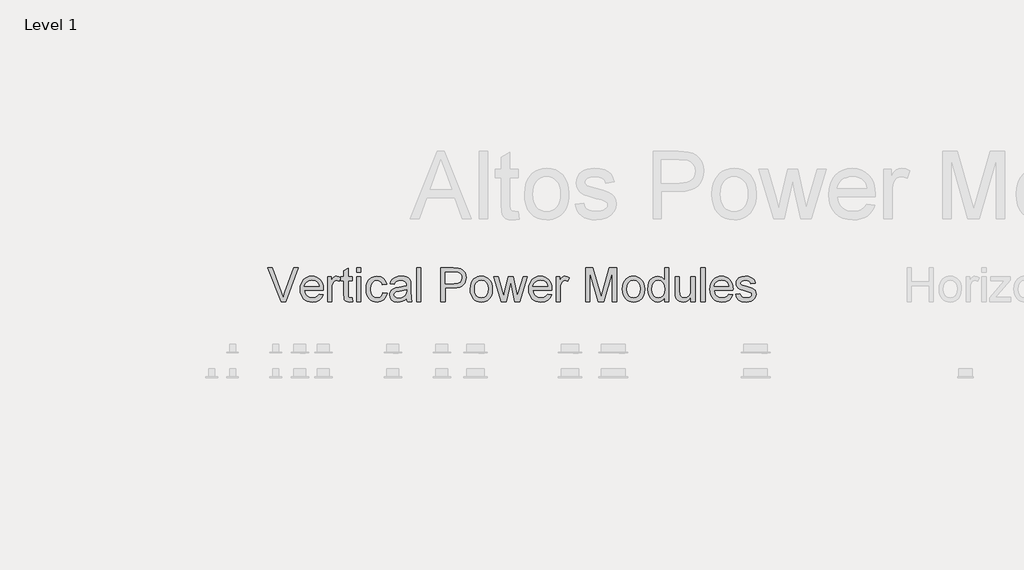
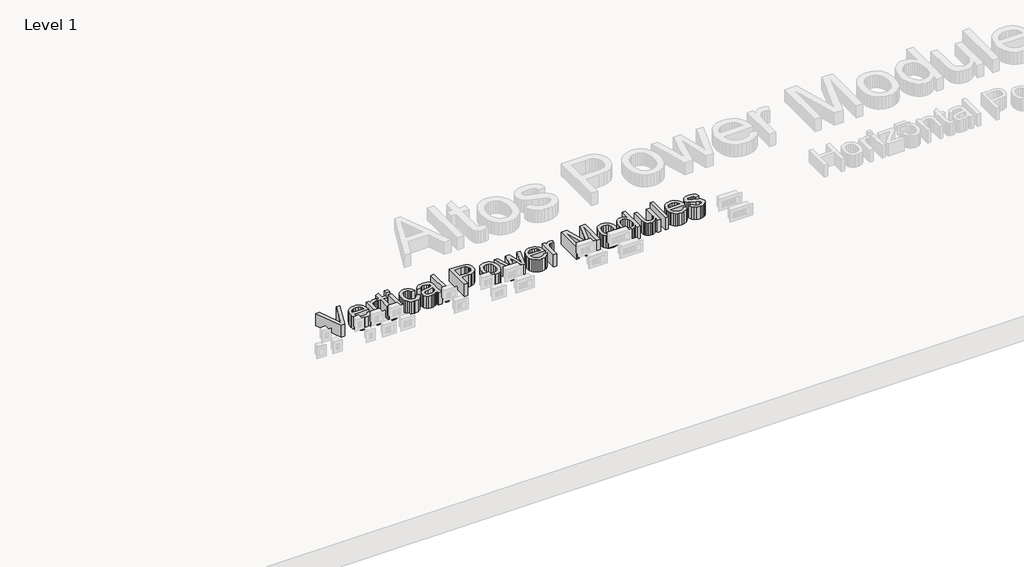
# One storey, part 18 of 22: 1 proxy.
"""IFC4 building model written with IfcOpenShell, lengths in millimetres."""

from ifc_helpers import new_model, si_unit, origin, origin_with_axes, place, context, project, spatial, polyline, outline, extrude, element, save

model = new_model("IFC4")

# Units and contexts
model_context = context("Model", 3, world=origin())
ifc_project = project(units=[si_unit("LENGTHUNIT", "METRE", prefix="MILLI")], contexts=[model_context])

# Site, building, storey
site = spatial("IfcSite", under=ifc_project)
building = spatial("IfcBuilding", under=site)
storey = spatial("IfcBuildingStorey", under=building, Name="Level 1", Elevation=0.0)

# Proxy
placement = place(None, origin())
element("IfcBuildingElementProxy", 1, Name="12\" Arial", ObjectType="12\" Arial", at=placement, inside=storey, context=model_context, shape_type="SweptSolid", body=[
    extrude(outline(polyline([(-18533.2888471, -4815.0855238), (-18654.4910843, -4510.5184297), (-18613.7433383, -4510.5184297), (-18532.6196323, -4729.946529), (-18516.186691, -4779.3940674), (-18499.9768212, -4729.946529), (-18418.6300437, -4510.5184297), (-18377.8822977, -4510.5184297), (-18493.953888, -4815.0855238), (-18533.2888471, -4815.0855238)])), origin_with_axes(), (0.0, 0.0, 1.0), 152.4),
    extrude(outline(polyline([(-18190.6508663, -4748.4614719), (-18153.3235516, -4753.2203328), (-18166.7729102, -4781.345944), (-18188.2342573, -4802.3704424), (-18217.2242709, -4815.4758991), (-18253.2596293, -4819.8443846), (-18276.8819825, -4817.9598943), (-18297.9297176, -4812.3064234), (-18316.4028347, -4802.8839719), (-18332.3013336, -4789.6925397), (-18345.0861248, -4773.0992657), (-18354.2181185, -4753.4712883), (-18359.6973148, -4730.8086078), (-18361.5237135, -4705.1112239), (-18359.6787255, -4678.5424667), (-18354.1437613, -4655.1245958), (-18344.9188211, -4634.8576112), (-18332.0039048, -4617.7415131), (-18316.1472318, -4604.14344), (-18298.0970213, -4594.4305307), (-18277.8532734, -4588.6027851), (-18255.4159881, -4586.6602032), (-18233.7013619, -4588.5981378), (-18214.0640899, -4594.4119414), (-18196.5041722, -4604.1016141), (-18181.0216088, -4617.6671559), (-18168.3832084, -4634.7460754), (-18159.3557795, -4654.9758814), (-18153.9393221, -4678.3565737), (-18152.1338363, -4704.8881523), (-18152.3569079, -4715.149446), (-18323.4528268, -4715.149446), (-18316.8629198, -4743.6468432), (-18301.5546312, -4764.5969845), (-18279.4612479, -4777.4793695), (-18252.5160573, -4781.7734979), (-18232.2537201, -4779.7844427), (-18215.1887425, -4773.8172774), (-18201.3211246, -4763.5002158), (-18190.6508663, -4748.4614719)]), holes=[polyline([(-18323.4528268, -4677.0785593), (-18190.2047231, -4677.0785593), (-18195.3539593, -4656.9649365), (-18205.4479492, -4642.5768181), (-18227.6435737, -4629.192522), (-18255.5647025, -4624.73109), (-18281.2272314, -4628.290941), (-18302.4469176, -4638.9704939), (-18317.1975272, -4655.6172122), (-18323.4528268, -4677.0785593)])]), origin_with_axes(), (0.0, 0.0, 1.0), 152.4),
    extrude(outline(polyline([(-17890.3964899, -4783.3349991), (-17885.637629, -4816.2008818), (-17914.1164369, -4819.8443846), (-17932.389719, -4818.2642941), (-17946.015676, -4813.5240226), (-17955.6449335, -4806.2184276), (-17961.928117, -4796.9423668), (-17965.3857268, -4781.0113365), (-17966.5382634, -4753.7408332), (-17966.5382634, -4629.4899508), (-17995.0914285, -4629.4899508), (-17995.0914285, -4598.4086409), (-17995.0914285, -4591.4190641), (-17966.5382634, -4591.4190641), (-17966.5382634, -4537.0639504), (-17928.4673766, -4514.6824329), (-17928.4673766, -4591.4190641), (-17890.3964899, -4591.4190641), (-17890.3964899, -4629.4899508), (-17928.4673766, -4629.4899508), (-17928.4673766, -4752.6254752), (-17926.4597322, -4772.2557762), (-17919.9534772, -4779.2081744), (-17906.9781456, -4781.7734979), (-17890.3964899, -4783.3349991)])), origin_with_axes(), (0.0, 0.0, 1.0), 152.4),
    extrude(outline(polyline([(-18114.0629496, -4815.0855238), (-18114.0629496, -4591.4190641), (-18080.7509237, -4591.4190641), (-18080.7509237, -4624.5080184), (-18068.444807, -4605.3238606), (-18057.1053339, -4594.0215661), (-18045.7286821, -4588.5005439), (-18033.3110296, -4586.6602032), (-18014.3499434, -4589.5973126), (-17995.0914285, -4598.4086409), (-18007.8065098, -4632.5385961), (-18021.1908059, -4626.6829665), (-18034.575102, -4624.73109), (-18045.9424591, -4626.6086093), (-18056.1015116, -4632.2411672), (-18064.3086877, -4641.2012099), (-18069.8204152, -4653.0611834), (-18074.4491509, -4674.3273428), (-18075.9920628, -4697.5267895), (-18075.9920628, -4815.0855238), (-18114.0629496, -4815.0855238)])), origin_with_axes(), (0.0, 0.0, 1.0), 152.4),
    extrude(outline(polyline([(-17852.3256031, -4815.0855238), (-17852.3256031, -4591.4190641), (-17814.2547164, -4591.4190641), (-17814.2547164, -4815.0855238), (-17852.3256031, -4815.0855238)])), origin_with_axes(), (0.0, 0.0, 1.0), 152.4),
    extrude(outline(polyline([(-17852.3256031, -4548.5893165), (-17852.3256031, -4510.5184297), (-17814.2547164, -4510.5184297), (-17814.2547164, -4548.5893165), (-17852.3256031, -4548.5893165)])), origin_with_axes(), (0.0, 0.0, 1.0), 152.4),
    extrude(outline(polyline([(-17614.3825609, -4734.1848894), (-17576.3116741, -4738.9437503), (-17586.9261645, -4772.8041605), (-17606.8724836, -4798.3923322), (-17634.2731121, -4814.4813715), (-17667.2505306, -4819.8443846), (-17688.6026655, -4817.9738363), (-17707.747321, -4812.3621913), (-17724.6844971, -4803.0094496), (-17739.4141939, -4789.9156113), (-17751.3369063, -4773.3269846), (-17759.8531294, -4753.4898776), (-17764.9628633, -4730.4042905), (-17766.6661079, -4704.0702231), (-17763.7568824, -4670.1912236), (-17755.029206, -4640.8294239), (-17740.3436589, -4617.1187716), (-17719.5608213, -4600.1932137), (-17694.6976323, -4590.0434558), (-17667.771031, -4586.6602032), (-17635.602247, -4591.3075283), (-17609.8839502, -4605.2495034), (-17591.4340698, -4627.7425566), (-17581.070535, -4658.0431159), (-17619.1414217, -4662.8019767), (-17626.0473467, -4646.192437), (-17636.8012569, -4634.2859903), (-17650.8082946, -4627.119815), (-17667.4736022, -4624.73109), (-17692.076541, -4629.4341829), (-17711.6046008, -4643.5434618), (-17724.3475661, -4667.8210878), (-17728.5952212, -4703.0292223), (-17724.4405126, -4738.711384), (-17711.9763868, -4763.0726619), (-17692.8015237, -4777.0982889), (-17668.514603, -4781.7734979), (-17648.8006502, -4778.8549777), (-17632.6372537, -4770.0994173), (-17620.8795213, -4755.2837451), (-17614.3825609, -4734.1848894)])), origin_with_axes(), (0.0, 0.0, 1.0), 152.4),
    extrude(outline(polyline([(-17400.2338229, -4786.5323587), (-17418.4234531, -4802.1287815), (-17437.152173, -4812.3343073), (-17456.8475365, -4817.9668653), (-17477.9370976, -4819.8443846), (-17509.7526848, -4815.3271847), (-17533.2216763, -4801.7755848), (-17547.6934465, -4781.1972296), (-17552.5173699, -4755.5997632), (-17550.6956185, -4739.8174474), (-17545.2303642, -4725.4850969), (-17536.8001166, -4713.2161588), (-17526.083385, -4703.6240799), (-17499.4263286, -4691.1320702), (-17466.4860887, -4685.4065657), (-17427.5600941, -4679.3836325), (-17400.4568945, -4672.3196984), (-17400.2338229, -4663.8429775), (-17402.8549142, -4646.8523572), (-17410.7181882, -4635.7359557), (-17428.3036661, -4627.4823064), (-17452.8043638, -4624.73109), (-17475.48331, -4626.562136), (-17491.3213937, -4632.0552742), (-17502.1217771, -4642.2143268), (-17509.6876223, -4658.0431159), (-17547.7585091, -4653.284255), (-17541.1500128, -4632.4642388), (-17531.2883891, -4616.1056547), (-17517.2534675, -4603.5950557), (-17498.1250776, -4594.3189949), (-17474.7304433, -4588.5749011), (-17447.8967885, -4586.6602032), (-17422.1599024, -4588.3518295), (-17401.7581455, -4593.4267085), (-17386.3754996, -4601.0576162), (-17375.6959466, -4610.4173288), (-17368.6134233, -4621.9891682), (-17364.0218661, -4636.2564561), (-17362.1629361, -4669.568482), (-17362.1629361, -4716.9340188), (-17360.2296489, -4783.0747489), (-17352.6452144, -4815.0855238), (-17390.7161012, -4815.0855238), (-17396.8133916, -4801.849942), (-17400.2338229, -4786.5323587)]), holes=[polyline([(-17400.2338229, -4710.3905852), (-17461.6528706, -4722.0646657), (-17494.4072176, -4728.2363134), (-17509.2414791, -4738.2745354), (-17514.4464831, -4752.922904), (-17511.6116149, -4764.2437878), (-17503.10701, -4773.5198486), (-17489.1185617, -4779.7100855), (-17469.8321627, -4781.7734979), (-17449.3839325, -4779.4963086), (-17431.3151328, -4772.6647408), (-17416.6667642, -4762.5986347), (-17406.4798277, -4750.6178308), (-17401.9626278, -4738.2745354), (-17400.4568945, -4721.1723793), (-17400.2338229, -4710.3905852)])]), origin_with_axes(), (0.0, 0.0, 1.0), 152.4),
    extrude(outline(polyline([(-17309.8154668, -4815.0855238), (-17309.8154668, -4510.5184297), (-17271.7445801, -4510.5184297), (-17271.7445801, -4815.0855238), (-17309.8154668, -4815.0855238)])), origin_with_axes(), (0.0, 0.0, 1.0), 152.4),
    extrude(outline(polyline([(-17090.907868, -4815.0855238), (-17090.907868, -4510.5184297), (-16978.0336373, -4510.5184297), (-16932.5270305, -4513.4183605), (-16912.2368093, -4518.8371415), (-16895.5343231, -4527.6577645), (-16882.0849644, -4540.2798993), (-16871.5541259, -4557.1032159), (-16864.750442, -4576.9472939), (-16862.4825474, -4598.6317125), (-16864.013841, -4617.3279012), (-16868.6077218, -4634.5276512), (-16876.2641898, -4650.2309625), (-16886.983245, -4664.4378352), (-16901.6989998, -4676.2141568), (-16921.3455664, -4684.6258151), (-16945.9229449, -4689.6728101), (-16975.4311353, -4691.3551418), (-17052.8369812, -4691.3551418), (-17052.8369812, -4815.0855238), (-17090.907868, -4815.0855238)]), holes=[polyline([(-17052.8369812, -4653.284255), (-16973.2004192, -4653.284255), (-16939.4422501, -4649.7894666), (-16917.1350899, -4639.3051013), (-16904.6988481, -4622.4817847), (-16900.5534342, -4599.9701421), (-16902.9979271, -4582.867986), (-16910.3314061, -4568.442689), (-16921.6429952, -4557.5865377), (-16936.0218189, -4551.1918185), (-16974.0927057, -4548.5893165), (-17052.8369812, -4548.5893165), (-17052.8369812, -4653.284255)])]), origin_with_axes(), (0.0, 0.0, 1.0), 152.4),
    extrude(outline(polyline([(-16824.4116606, -4703.2522939), (-16822.3528956, -4674.2855169), (-16816.1766007, -4649.3247341), (-16805.8827757, -4628.3699455), (-16791.4714207, -4611.4211511), (-16776.9624719, -4600.5882364), (-16760.9477898, -4592.8504402), (-16743.4273744, -4588.2077625), (-16724.4012257, -4586.6602032), (-16703.3976402, -4588.5446935), (-16684.4063464, -4594.1981644), (-16667.4273443, -4603.620616), (-16652.460634, -4616.8120481), (-16640.2451401, -4633.3263176), (-16631.5197874, -4652.7172814), (-16626.2845757, -4674.9849393), (-16624.5395052, -4700.1292915), (-16627.625329, -4738.5905535), (-16636.8828005, -4767.8687013), (-16652.0423748, -4789.7947809), (-16672.834507, -4806.1998383), (-16697.5303923, -4816.433248), (-16724.4012257, -4819.8443846), (-16745.7115347, -4817.9668653), (-16764.8794268, -4812.3343073), (-16781.9049021, -4802.9467108), (-16796.7879606, -4789.8040755), (-16808.8733294, -4773.1294733), (-16817.5057356, -4753.1459756), (-16822.6851794, -4729.8535825), (-16824.4116606, -4703.2522939)]), holes=[polyline([(-16786.3407739, -4703.1779367), (-16781.9351097, -4737.6332046), (-16768.7181173, -4762.1803755), (-16748.8275661, -4776.8752173), (-16724.4012257, -4781.7734979), (-16700.0864211, -4776.8473333), (-16680.2330485, -4762.0688397), (-16667.0160561, -4737.196356), (-16662.6103919, -4701.9882215), (-16667.04394, -4668.5367758), (-16680.3445843, -4644.3242124), (-16700.2258408, -4629.6293706), (-16724.4012257, -4624.73109), (-16748.8275661, -4629.6107813), (-16768.7181173, -4644.2498552), (-16781.9351097, -4668.7412581), (-16786.3407739, -4703.1779367)])]), origin_with_axes(), (0.0, 0.0, 1.0), 152.4),
    extrude(outline(polyline([(-16544.6055144, -4815.0855238), (-16612.642353, -4591.4190641), (-16573.0843223, -4591.4190641), (-16534.4929351, -4721.9159513), (-16522.967569, -4768.5379161), (-16513.5242045, -4723.6261669), (-16482.8146806, -4591.4190641), (-16437.4567882, -4591.4190641), (-16406.8959787, -4723.2543809), (-16398.493615, -4763.9277697), (-16386.4477485, -4721.0236649), (-16347.7820042, -4591.4190641), (-16308.075259, -4591.4190641), (-16376.632598, -4815.0855238), (-16422.6597053, -4815.0855238), (-16451.8820851, -4683.9194217), (-16460.358806, -4643.0229613), (-16498.0579068, -4815.0855238), (-16544.6055144, -4815.0855238)])), origin_with_axes(), (0.0, 0.0, 1.0), 152.4),
    extrude(outline(polyline([(-16125.3052597, -4748.4614719), (-16087.9779449, -4753.2203328), (-16101.4273036, -4781.345944), (-16122.8886506, -4802.3704424), (-16151.8786643, -4815.4758991), (-16187.9140226, -4819.8443846), (-16211.5363758, -4817.9598943), (-16232.584111, -4812.3064234), (-16251.057228, -4802.8839719), (-16266.955727, -4789.6925397), (-16279.7405182, -4773.0992657), (-16288.8725119, -4753.4712883), (-16294.3517081, -4730.8086078), (-16296.1781069, -4705.1112239), (-16294.3331188, -4678.5424667), (-16288.7981547, -4655.1245958), (-16279.5732145, -4634.8576112), (-16266.6582982, -4617.7415131), (-16250.8016251, -4604.14344), (-16232.7514147, -4594.4305307), (-16212.5076668, -4588.6027851), (-16190.0703815, -4586.6602032), (-16168.3557552, -4588.5981378), (-16148.7184832, -4594.4119414), (-16131.1585655, -4604.1016141), (-16115.6760022, -4617.6671559), (-16103.0376017, -4634.7460754), (-16094.0101728, -4654.9758814), (-16088.5937155, -4678.3565737), (-16086.7882297, -4704.8881523), (-16087.0113013, -4715.149446), (-16258.1072201, -4715.149446), (-16251.5173132, -4743.6468432), (-16236.2090245, -4764.5969845), (-16214.1156412, -4777.4793695), (-16187.1704506, -4781.7734979), (-16166.9081134, -4779.7844427), (-16149.8431359, -4773.8172774), (-16135.975518, -4763.5002158), (-16125.3052597, -4748.4614719)]), holes=[polyline([(-16258.1072201, -4677.0785593), (-16124.8591165, -4677.0785593), (-16130.0083526, -4656.9649365), (-16140.1023426, -4642.5768181), (-16162.297967, -4629.192522), (-16190.2190959, -4624.73109), (-16215.8816248, -4628.290941), (-16237.1013109, -4638.9704939), (-16251.8519206, -4655.6172122), (-16258.1072201, -4677.0785593)])]), origin_with_axes(), (0.0, 0.0, 1.0), 152.4),
    extrude(outline(polyline([(-16048.7173429, -4815.0855238), (-16048.7173429, -4591.4190641), (-16015.405317, -4591.4190641), (-16015.405317, -4624.5080184), (-16003.0992003, -4605.3238606), (-15991.7597272, -4594.0215661), (-15980.3830755, -4588.5005439), (-15967.965423, -4586.6602032), (-15949.0043368, -4589.5973126), (-15929.7458218, -4598.4086409), (-15942.4609031, -4632.5385961), (-15955.8451993, -4626.6829665), (-15969.2294954, -4624.73109), (-15980.5968524, -4626.6086093), (-15990.755905, -4632.2411672), (-15998.963081, -4641.2012099), (-16004.4748085, -4653.0611834), (-16009.1035443, -4674.3273428), (-16010.6464562, -4697.5267895), (-16010.6464562, -4815.0855238), (-16048.7173429, -4815.0855238)])), origin_with_axes(), (0.0, 0.0, 1.0), 152.4),
    extrude(outline(polyline([(-15782.2211356, -4815.0855238), (-15782.2211356, -4510.5184297), (-15716.7124418, -4510.5184297), (-15654.4011076, -4725.1876681), (-15641.8347407, -4770.0250601), (-15628.227373, -4721.4698081), (-15566.9570396, -4510.5184297), (-15501.4483458, -4510.5184297), (-15501.4483458, -4815.0855238), (-15539.5192325, -4815.0855238), (-15539.5192325, -4548.5893165), (-15616.0327921, -4815.0855238), (-15667.6366893, -4815.0855238), (-15744.1502489, -4548.5893165), (-15744.1502489, -4815.0855238), (-15782.2211356, -4815.0855238)])), origin_with_axes(), (0.0, 0.0, 1.0), 152.4),
    extrude(outline(polyline([(-15449.1008765, -4703.2522939), (-15447.0421115, -4674.2855169), (-15440.8658165, -4649.3247341), (-15430.5719915, -4628.3699455), (-15416.1606366, -4611.4211511), (-15401.6516878, -4600.5882364), (-15385.6370057, -4592.8504402), (-15368.1165903, -4588.2077625), (-15349.0904415, -4586.6602032), (-15328.086856, -4588.5446935), (-15309.0955622, -4594.1981644), (-15292.1165602, -4603.620616), (-15277.1498499, -4616.8120481), (-15264.934356, -4633.3263176), (-15256.2090032, -4652.7172814), (-15250.9737916, -4674.9849393), (-15249.228721, -4700.1292915), (-15252.3145448, -4738.5905535), (-15261.5720163, -4767.8687013), (-15276.7315906, -4789.7947809), (-15297.5237229, -4806.1998383), (-15322.2196081, -4816.433248), (-15349.0904415, -4819.8443846), (-15370.4007505, -4817.9668653), (-15389.5686427, -4812.3343073), (-15406.594118, -4802.9467108), (-15421.4771764, -4789.8040755), (-15433.5625452, -4773.1294733), (-15442.1949515, -4753.1459756), (-15447.3743952, -4729.8535825), (-15449.1008765, -4703.2522939)]), holes=[polyline([(-15411.0299897, -4703.1779367), (-15406.6243256, -4737.6332046), (-15393.4073332, -4762.1803755), (-15373.516782, -4776.8752173), (-15349.0904415, -4781.7734979), (-15324.7756369, -4776.8473333), (-15304.9222643, -4762.0688397), (-15291.7052719, -4737.196356), (-15287.2996078, -4701.9882215), (-15291.7331559, -4668.5367758), (-15305.0338001, -4644.3242124), (-15324.9150567, -4629.6293706), (-15349.0904415, -4624.73109), (-15373.516782, -4629.6107813), (-15393.4073332, -4644.2498552), (-15406.6243256, -4668.7412581), (-15411.0299897, -4703.1779367)])]), origin_with_axes(), (0.0, 0.0, 1.0), 152.4),
    extrude(outline(polyline([(-15068.3920089, -4815.0855238), (-15068.3920089, -4779.1709958), (-15079.7826026, -4796.9656034), (-15093.5805106, -4809.6760374), (-15109.7857331, -4817.3022978), (-15128.3982699, -4819.8443846), (-15153.0105033, -4816.1637032), (-15175.5407351, -4805.1216589), (-15194.6133571, -4787.4897077), (-15208.852761, -4764.0393055), (-15217.7198572, -4735.7185067), (-15220.6755559, -4703.4753655), (-15217.9522235, -4671.6318943), (-15209.782226, -4642.8742469), (-15196.1748583, -4618.8382818), (-15177.1394149, -4601.1598574), (-15154.1165667, -4590.2851168), (-15128.5469843, -4586.6602032), (-15109.9205055, -4589.2534106), (-15093.4503855, -4597.0330327), (-15079.4898211, -4608.9580688), (-15068.3920089, -4623.987518), (-15068.3920089, -4510.5184297), (-15030.3211221, -4510.5184297), (-15030.3211221, -4815.0855238), (-15068.3920089, -4815.0855238)]), holes=[polyline([(-15182.6046692, -4703.3266511), (-15178.3105408, -4737.7633297), (-15165.4281558, -4762.2547327), (-15146.7087305, -4776.8938066), (-15124.9034814, -4781.7734979), (-15103.107527, -4777.1168782), (-15084.8621289, -4763.1470191), (-15072.5095389, -4739.6036704), (-15068.3920089, -4706.2265819), (-15072.5838961, -4669.7357857), (-15085.1595577, -4644.4357482), (-15103.8696883, -4629.6572545), (-15126.4649827, -4624.73109), (-15148.4933034, -4629.4620669), (-15166.5435138, -4643.6549976), (-15178.5893803, -4668.0348647), (-15182.6046692, -4703.3266511)])]), origin_with_axes(), (0.0, 0.0, 1.0), 152.4),
    extrude(outline(polyline([(-14830.4489667, -4815.0855238), (-14830.4489667, -4776.642851), (-14844.2236381, -4795.543522), (-14860.2662041, -4809.0440012), (-14878.5766648, -4817.1442888), (-14899.1550201, -4819.8443846), (-14917.697847, -4817.948276), (-14934.9580122, -4812.2599501), (-14949.4390771, -4803.7088721), (-14959.6446029, -4793.2245068), (-14966.5133493, -4780.4908361), (-14970.984076, -4765.1918421), (-14973.214792, -4729.7978146), (-14973.214792, -4591.4190641), (-14935.1439052, -4591.4190641), (-14935.1439052, -4711.8777292), (-14932.838832, -4750.692188), (-14927.2899259, -4763.6396355), (-14917.7814989, -4773.48267), (-14904.9455871, -4779.7007909), (-14889.4142268, -4781.7734979), (-14872.9905801, -4779.6543176), (-14857.6265235, -4773.296777), (-14844.9579154, -4763.2864388), (-14836.6206143, -4750.2088662), (-14831.9918786, -4732.2980754), (-14830.4489667, -4707.7880832), (-14830.4489667, -4591.4190641), (-14792.3780799, -4591.4190641), (-14792.3780799, -4815.0855238), (-14830.4489667, -4815.0855238)])), origin_with_axes(), (0.0, 0.0, 1.0), 152.4),
    extrude(outline(polyline([(-14740.0306106, -4815.0855238), (-14740.0306106, -4510.5184297), (-14701.9597239, -4510.5184297), (-14701.9597239, -4815.0855238), (-14740.0306106, -4815.0855238)])), origin_with_axes(), (0.0, 0.0, 1.0), 152.4),
    extrude(outline(polyline([(-14488.257129, -4748.4614719), (-14450.9298143, -4753.2203328), (-14464.379173, -4781.345944), (-14485.84052, -4802.3704424), (-14514.8305336, -4815.4758991), (-14550.865892, -4819.8443846), (-14574.4882452, -4817.9598943), (-14595.5359804, -4812.3064234), (-14614.0090974, -4802.8839719), (-14629.9075964, -4789.6925397), (-14642.6923876, -4773.0992657), (-14651.8243813, -4753.4712883), (-14657.3035775, -4730.8086078), (-14659.1299762, -4705.1112239), (-14657.2849882, -4678.5424667), (-14651.7500241, -4655.1245958), (-14642.5250839, -4634.8576112), (-14629.6101676, -4617.7415131), (-14613.7534945, -4604.14344), (-14595.7032841, -4594.4305307), (-14575.4595362, -4588.6027851), (-14553.0222509, -4586.6602032), (-14531.3076246, -4588.5981378), (-14511.6703526, -4594.4119414), (-14494.1104349, -4604.1016141), (-14478.6278715, -4617.6671559), (-14465.9894711, -4634.7460754), (-14456.9620422, -4654.9758814), (-14451.5455849, -4678.3565737), (-14449.7400991, -4704.8881523), (-14449.9631707, -4715.149446), (-14621.0590895, -4715.149446), (-14614.4691826, -4743.6468432), (-14599.1608939, -4764.5969845), (-14577.0675106, -4777.4793695), (-14550.12232, -4781.7734979), (-14529.8599828, -4779.7844427), (-14512.7950053, -4773.8172774), (-14498.9273873, -4763.5002158), (-14488.257129, -4748.4614719)]), holes=[polyline([(-14621.0590895, -4677.0785593), (-14487.8109858, -4677.0785593), (-14492.960222, -4656.9649365), (-14503.054212, -4642.5768181), (-14525.2498364, -4629.192522), (-14553.1709653, -4624.73109), (-14578.8334941, -4628.290941), (-14600.0531803, -4638.9704939), (-14614.80379, -4655.6172122), (-14621.0590895, -4677.0785593)])]), origin_with_axes(), (0.0, 0.0, 1.0), 152.4),
    extrude(outline(polyline([(-14425.9457949, -4748.4614719), (-14387.8749081, -4743.7026111), (-14381.8705641, -4759.9868381), (-14370.2522515, -4771.9583474), (-14352.9456131, -4779.3197102), (-14329.8762915, -4781.7734979), (-14307.0858095, -4779.5241925), (-14291.0618328, -4772.7762766), (-14281.5812897, -4762.9983047), (-14278.4211087, -4751.6588316), (-14281.599879, -4741.9552169), (-14291.13619, -4734.5566754), (-14330.3224348, -4723.7005241), (-14387.6518365, -4705.0740453), (-14402.1607853, -4695.7143327), (-14412.6730345, -4683.3245641), (-14419.0584591, -4668.6947849), (-14421.186934, -4652.6150402), (-14419.4767184, -4637.8644306), (-14414.3460715, -4624.2477682), (-14406.259726, -4612.3041428), (-14395.6824142, -4602.5726442), (-14371.4791453, -4591.3075283), (-14338.7247984, -4586.6602032), (-14313.9452613, -4588.5284279), (-14292.4002624, -4594.1331019), (-14275.0750346, -4602.9258409), (-14262.9548109, -4614.3582605), (-14254.9242332, -4629.2761739), (-14249.8679436, -4648.5253942), (-14287.9388304, -4653.284255), (-14292.7441644, -4641.3034511), (-14302.2525915, -4632.2783458), (-14316.557058, -4626.6179039), (-14335.7505104, -4624.73109), (-14357.6115274, -4626.5342521), (-14372.1855387, -4631.9437384), (-14380.3834201, -4639.7512445), (-14383.1160472, -4648.7484658), (-14378.580258, -4659.8276887), (-14364.3780327, -4668.2300524), (-14331.5865072, -4676.3349873), (-14275.7070708, -4694.2550726), (-14260.9471665, -4702.82474), (-14249.7564078, -4714.5545884), (-14242.7017684, -4729.4817965), (-14240.3502219, -4747.6435427), (-14243.110733, -4766.4187359), (-14251.3922662, -4784.0785711), (-14264.8788035, -4799.2381454), (-14283.2543267, -4810.5125559), (-14305.4499511, -4817.5114274), (-14330.396792, -4819.8443846), (-14368.7836968, -4815.345774), (-14396.7977722, -4801.849942), (-14415.4986082, -4779.5056032), (-14425.9457949, -4748.4614719)])), origin_with_axes(), (0.0, 0.0, 1.0), 152.4),
])

save(model, "model.ifc")
